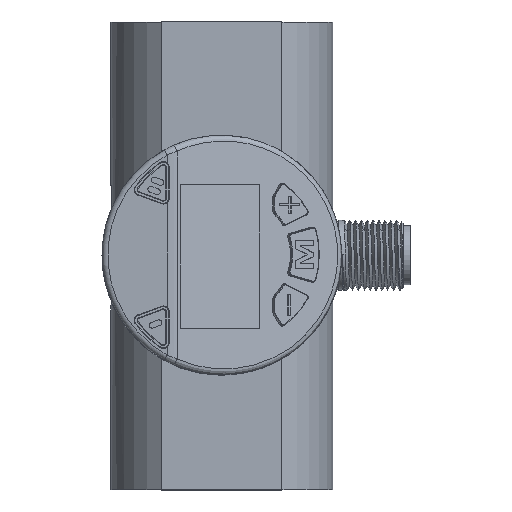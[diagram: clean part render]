
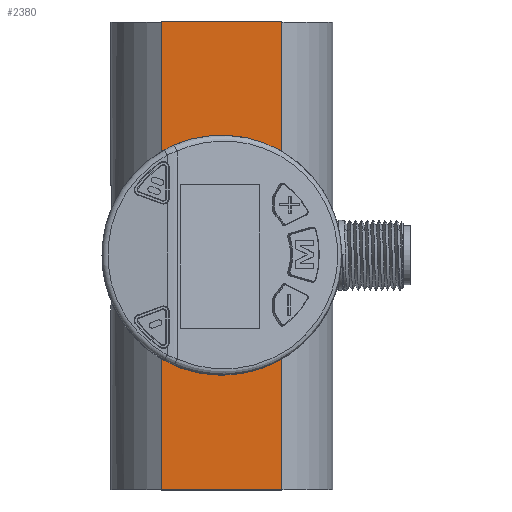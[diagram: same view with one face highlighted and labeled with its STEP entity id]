
A CAD part, top view. The second image highlights one B-rep face of the part: STEP entity #2380.
In plain terms, the highlighted planar face has unit normal (0, 0, 1).
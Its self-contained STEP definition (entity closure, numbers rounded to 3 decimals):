
#1717=PLANE('',#9930);
#2380=ADVANCED_FACE('',(#4117,#4118),#1717,.T.);
#3024=LINE('',#13010,#3558);
#3060=LINE('',#13435,#3594);
#3065=LINE('',#13451,#3599);
#3066=LINE('',#13457,#3600);
#3558=VECTOR('',#10727,1.);
#3594=VECTOR('',#10845,1.);
#3599=VECTOR('',#10858,1.);
#3600=VECTOR('',#10865,1.);
#4117=FACE_BOUND('',#4341,.T.);
#4118=FACE_BOUND('',#4342,.T.);
#4341=EDGE_LOOP('',(#5375,#5376,#5377,#5378,#5379));
#4342=EDGE_LOOP('',(#5380,#5381,#5382,#5383));
#4947=B_SPLINE_CURVE_WITH_KNOTS('',3,(#15750,#15751,#15752,#15753,#15754,
#15755,#15756,#15757,#15758,#15759),.UNSPECIFIED.,.F.,.F.,(4,2,2,2,4),(0.,
0.25,0.5,0.75,1.),.UNSPECIFIED.);
#4948=B_SPLINE_CURVE_WITH_KNOTS('',3,(#15761,#15762,#15763,#15764,#15765,
#15766,#15767,#15768,#15769,#15770),.UNSPECIFIED.,.F.,.F.,(4,2,2,2,4),(0.,
0.25,0.5,0.75,1.),.UNSPECIFIED.);
#5375=ORIENTED_EDGE('',*,*,#8425,.F.);
#5376=ORIENTED_EDGE('',*,*,#8349,.T.);
#5377=ORIENTED_EDGE('',*,*,#8366,.T.);
#5378=ORIENTED_EDGE('',*,*,#8426,.F.);
#5379=ORIENTED_EDGE('',*,*,#8427,.F.);
#5380=ORIENTED_EDGE('',*,*,#8378,.T.);
#5381=ORIENTED_EDGE('',*,*,#8295,.F.);
#5382=ORIENTED_EDGE('',*,*,#8389,.F.);
#5383=ORIENTED_EDGE('',*,*,#8386,.F.);
#7522=VERTEX_POINT('',#13009);
#7523=VERTEX_POINT('',#13011);
#7566=VERTEX_POINT('',#13215);
#7567=VERTEX_POINT('',#13216);
#7581=VERTEX_POINT('',#13325);
#7583=VERTEX_POINT('',#13436);
#7590=VERTEX_POINT('',#13452);
#7614=VERTEX_POINT('',#15760);
#7615=VERTEX_POINT('',#15771);
#8295=EDGE_CURVE('',#7522,#7523,#3024,.T.);
#8349=EDGE_CURVE('',#7566,#7567,#9475,.T.);
#8366=EDGE_CURVE('',#7567,#7581,#9476,.T.);
#8378=EDGE_CURVE('',#7583,#7523,#3060,.T.);
#8386=EDGE_CURVE('',#7583,#7590,#3065,.T.);
#8389=EDGE_CURVE('',#7590,#7522,#3066,.T.);
#8425=EDGE_CURVE('',#7566,#7614,#4947,.T.);
#8426=EDGE_CURVE('',#7615,#7581,#4948,.T.);
#8427=EDGE_CURVE('',#7614,#7615,#9495,.T.);
#9475=CIRCLE('',#9882,7.5);
#9476=CIRCLE('',#9887,7.5);
#9495=CIRCLE('',#9929,8.5);
#9882=AXIS2_PLACEMENT_3D('',#13214,#10812,#10813);
#9887=AXIS2_PLACEMENT_3D('',#13326,#10829,#10830);
#9929=AXIS2_PLACEMENT_3D('',#15772,#10927,#10928);
#9930=AXIS2_PLACEMENT_3D('',#15773,#10929,#10930);
#10727=DIRECTION('',(0.,1.,0.));
#10812=DIRECTION('',(0.,0.,-1.));
#10813=DIRECTION('',(0.,1.,0.));
#10829=DIRECTION('',(0.,0.,-1.));
#10830=DIRECTION('',(0.,1.,0.));
#10845=DIRECTION('',(-1.,0.,0.));
#10858=DIRECTION('',(0.,-1.,0.));
#10865=DIRECTION('',(-1.,0.,0.));
#10927=DIRECTION('',(0.,0.,1.));
#10928=DIRECTION('',(0.,-1.,0.));
#10929=DIRECTION('',(0.,0.,1.));
#10930=DIRECTION('',(0.,-1.,0.));
#13009=CARTESIAN_POINT('',(15.217,-3.6,-94.023));
#13010=CARTESIAN_POINT('',(15.217,80.4,-94.023));
#13011=CARTESIAN_POINT('',(15.217,76.4,-94.023));
#13214=CARTESIAN_POINT('',(25.5,36.4,-94.023));
#13215=CARTESIAN_POINT('',(25.229,43.895,-94.023));
#13216=CARTESIAN_POINT('',(25.5,43.9,-94.023));
#13325=CARTESIAN_POINT('',(25.771,43.895,-94.023));
#13326=CARTESIAN_POINT('',(25.5,36.4,-94.023));
#13435=CARTESIAN_POINT('',(25.5,76.4,-94.023));
#13436=CARTESIAN_POINT('',(35.783,76.4,-94.023));
#13451=CARTESIAN_POINT('',(35.783,80.4,-94.023));
#13452=CARTESIAN_POINT('',(35.783,-3.6,-94.023));
#13457=CARTESIAN_POINT('',(25.5,-3.6,-94.023));
#15750=CARTESIAN_POINT('',(25.229,43.895,-94.023));
#15751=CARTESIAN_POINT('',(23.191,43.91,-94.023));
#15752=CARTESIAN_POINT('',(21.194,43.066,-94.023));
#15753=CARTESIAN_POINT('',(18.359,40.221,-94.023));
#15754=CARTESIAN_POINT('',(17.52,38.219,-94.023));
#15755=CARTESIAN_POINT('',(17.453,34.191,-94.023));
#15756=CARTESIAN_POINT('',(18.202,32.184,-94.023));
#15757=CARTESIAN_POINT('',(20.906,29.145,-94.023));
#15758=CARTESIAN_POINT('',(22.786,28.174,-94.023));
#15759=CARTESIAN_POINT('',(24.805,27.928,-94.023));
#15760=CARTESIAN_POINT('',(24.805,27.928,-94.023));
#15761=CARTESIAN_POINT('',(26.195,27.928,-94.023));
#15762=CARTESIAN_POINT('',(28.215,28.174,-94.023));
#15763=CARTESIAN_POINT('',(30.119,29.17,-94.023));
#15764=CARTESIAN_POINT('',(32.783,32.17,-94.023));
#15765=CARTESIAN_POINT('',(33.547,34.198,-94.023));
#15766=CARTESIAN_POINT('',(33.48,38.211,-94.023));
#15767=CARTESIAN_POINT('',(32.65,40.212,-94.023));
#15768=CARTESIAN_POINT('',(29.799,43.073,-94.023));
#15769=CARTESIAN_POINT('',(27.809,43.91,-94.023));
#15770=CARTESIAN_POINT('',(25.771,43.895,-94.023));
#15771=CARTESIAN_POINT('',(26.195,27.928,-94.023));
#15772=CARTESIAN_POINT('',(25.5,36.4,-94.023));
#15773=CARTESIAN_POINT('',(48.,139.4,-94.023));
